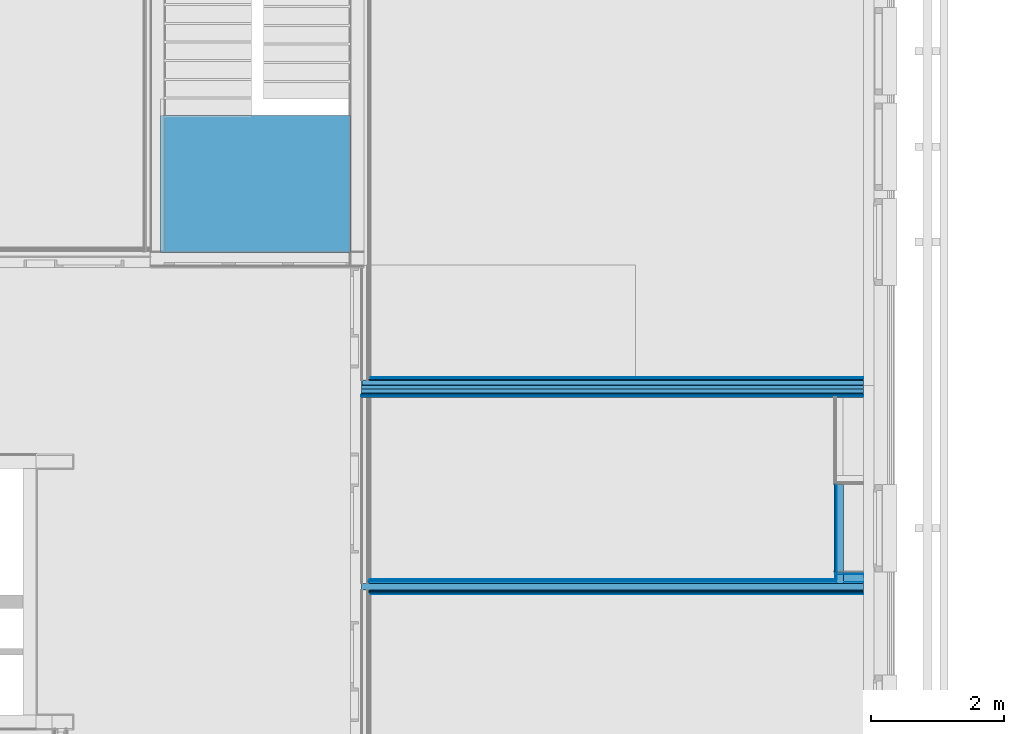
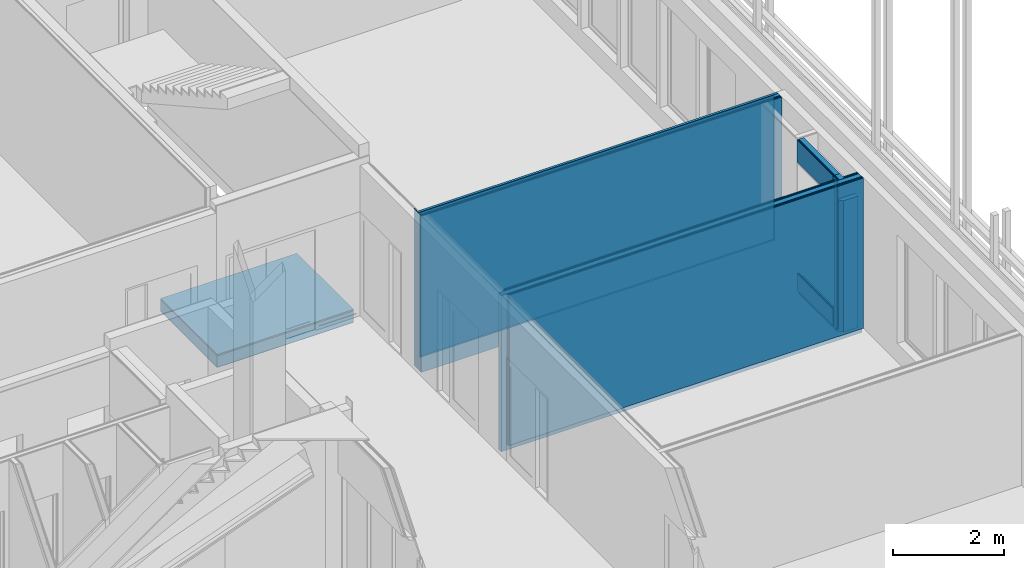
# One storey, part 104 of 139: 36 building element parts, 7 elements without a shape of their own.
"""IFC2X3 building model written with IfcOpenShell, lengths in millimetres."""

from ifc_helpers import new_model, entity, si_unit, converted_unit, derived_unit, money_unit, direction, frame, origin_with_axes, place, context, subcontext, project, spatial, faceted_brep, material, type_object, element, aggregate, save


model = new_model("IFC2X3")

# Units and contexts
model_context = context("Model", 3, precision=0.01, world=origin_with_axes(), true_north=direction((0.0, 1.0)))
body_context = subcontext(model_context, "Body", "Model", "MODEL_VIEW")
ifc_project = project(units=[si_unit("LENGTHUNIT", "METRE", prefix="MILLI"), si_unit("AREAUNIT", "SQUARE_METRE"), si_unit("VOLUMEUNIT", "CUBIC_METRE"), converted_unit("PLANEANGLEUNIT", "DEGREE", entity("IfcPlaneAngleMeasure", 0.0174532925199), si_unit("PLANEANGLEUNIT", "RADIAN"), dimensions=[0, 0, 0, 0, 0, 0, 0]), money_unit("EUR"), converted_unit("TIMEUNIT", "Year", entity("IfcTimeMeasure", 31556926.0), si_unit("TIMEUNIT", "SECOND"), dimensions=[0, 0, 1, 0, 0, 0, 0]), si_unit("MASSUNIT", "GRAM", prefix="KILO"), si_unit("THERMODYNAMICTEMPERATUREUNIT", "DEGREE_CELSIUS"), si_unit("LUMINOUSINTENSITYUNIT", "LUMEN"), si_unit("ENERGYUNIT", "JOULE", prefix="MEGA"), derived_unit("THERMALCONDUCTANCEUNIT", [(si_unit("POWERUNIT", "WATT"), 1), (si_unit("LENGTHUNIT", "METRE"), -1), (si_unit("THERMODYNAMICTEMPERATUREUNIT", "KELVIN"), -1)]), derived_unit("SPECIFICHEATCAPACITYUNIT", [(si_unit("ENERGYUNIT", "JOULE"), 1), (si_unit("MASSUNIT", "GRAM", prefix="KILO"), -1), (si_unit("THERMODYNAMICTEMPERATUREUNIT", "KELVIN"), -1)]), derived_unit("MASSDENSITYUNIT", [(si_unit("MASSUNIT", "GRAM", prefix="KILO"), 1), (si_unit("VOLUMEUNIT", "CUBIC_METRE"), -1)])], contexts=[model_context])

# Site, building, storey
site_placement = place(None, origin_with_axes())
site = spatial("IfcSite", under=ifc_project, at=site_placement, Name="Kolde pst 67a", CompositionType="ELEMENT")
building_placement = place(site_placement, origin_with_axes())
building = spatial("IfcBuilding", under=site, at=building_placement, Name="Riigigümnaasium", CompositionType="ELEMENT")
storey_placement = place(building_placement, frame((0.0, 0.0, 4600.0), z_axis=(0.0, 0.0, 1.0), x_axis=(1.0, 0.0, 0.0)))
storey = spatial("IfcBuildingStorey", under=building, at=storey_placement, Name="2. korrus", CompositionType="ELEMENT", Elevation=4600.0)

# Wall, building element parts
wall_type_1 = type_object("IfcWallType", Name="SS-PK-07/1_2xvill70+2dold muusikaklassi sein 300", PredefinedType="NOTDEFINED")
wall_1_placement = place(storey_placement, frame((52589.9941222, 50935.0003787, -130.0), z_axis=(0.0, 0.0, 1.0), x_axis=(1.0, 0.0, 0.0)))
wall_1 = element("IfcWall", 1, at=wall_1_placement, inside=storey, type_object=wall_type_1, Name="Sisesein")
ifc_material_1 = material(Name="_VIIMISTLUSKIHT - viimistlus vastavalt SA osale")
building_element_part_1_placement = place(wall_1_placement, origin_with_axes())
building_element_part_1 = element("IfcBuildingElementPart", 2, at=building_element_part_1_placement, material=ifc_material_1, Name="_VIIMISTLUSKIHT - viimistlus vastavalt SA osale", context=body_context, shape_type="Brep", body=[
    faceted_brep([(7690.0, -10.0, 130.0), (7690.0, 0.0, 130.0), (7690.0, 0.0, 3305.0), (7690.0, -10.0, 3305.0), (300.0, -10.0, 130.0), (300.0, 0.0, 130.0), (300.0, 0.0, 3305.0), (300.0, -10.0, 3305.0)], [[[0, 1, 2, 3]], [[1, 0, 4, 5]], [[1, 5, 6, 2]], [[3, 2, 6, 7]], [[0, 3, 7, 4]], [[5, 4, 7, 6]]]),
])
ifc_material_2 = material(Name="_PLAATMATERJAL - tuletõkkekipsplaat, Knauf Red GKF või samaväärne")
building_element_part_2_placement = place(wall_1_placement, origin_with_axes())
building_element_part_2 = element("IfcBuildingElementPart", 3, at=building_element_part_2_placement, material=ifc_material_2, Name="_PLAATMATERJAL - tuletõkkekipsplaat, Knauf Red GKF või samaväärne", context=body_context, shape_type="Brep", body=[
    faceted_brep([(7690.0, -25.0, 127.0), (7690.0, -10.0, 127.0), (7690.0, -10.0, 3330.0), (7690.0, -25.0, 3330.0), (290.0, -25.0, 127.0), (290.0, -10.0, 127.0), (290.0, -10.0, 3330.0), (290.0, -25.0, 3330.0)], [[[0, 1, 2, 3]], [[1, 0, 4, 5]], [[1, 5, 6, 2]], [[3, 2, 6, 7]], [[0, 3, 7, 4]], [[5, 4, 7, 6]]]),
])
ifc_material_3 = material(Name="_PLAATMATERJAL - OSB3 plaat")
building_element_part_3_placement = place(wall_1_placement, origin_with_axes())
building_element_part_3 = element("IfcBuildingElementPart", 4, at=building_element_part_3_placement, material=ifc_material_3, Name="_PLAATMATERJAL - OSB3 plaat", context=body_context, shape_type="Brep", body=[
    faceted_brep([(7690.0, -40.0, 127.0), (7690.0, -25.0, 127.0), (7690.0, -25.0, 3330.0), (7690.0, -40.0, 3330.0), (275.0, -40.0, 127.0), (275.0, -25.0, 127.0), (275.0, -25.0, 3330.0), (275.0, -40.0, 3330.0)], [[[0, 1, 2, 3]], [[1, 0, 4, 5]], [[1, 5, 6, 2]], [[3, 2, 6, 7]], [[0, 3, 7, 4]], [[5, 4, 7, 6]]]),
])
ifc_material_4 = material(Name="_KARKASS - puitroov 70x45mm vertikaalne, samm 600mm, vahel mineraalvill, helineeldetegur αw = 1.0, ISOVER ACOUSTIC 70mm või samaväärne")
building_element_part_4_placement = place(wall_1_placement, origin_with_axes())
building_element_part_4 = element("IfcBuildingElementPart", 5, at=building_element_part_4_placement, material=ifc_material_4, Name="_KARKASS - puitroov 70x45mm vertikaalne, samm 600mm, vahel mineraalvill, helineeldetegur αw = 1.0, ISOVER ACOUSTIC 70mm või samaväärne", context=body_context, shape_type="Brep", body=[
    faceted_brep([(169.999902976, -40.0, 3470.0), (169.999902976, -40.0, 3380.0), (7690.0, -40.0, 3380.0), (7690.0, -40.0, 0.0), (160.0, -40.0, 0.0), (160.0, -40.0, 3470.0), (169.999902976, -110.0, 3470.0), (169.999902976, -110.0, 3380.0), (7690.0, -110.0, 3380.0), (7690.0, -110.0, 0.0), (160.0, -110.0, 0.0), (160.0, -110.0, 3470.0)], [[[0, 1, 2, 3, 4, 5]], [[1, 0, 6, 7]], [[8, 2, 1, 7]], [[2, 8, 9, 3]], [[3, 9, 10, 4]], [[10, 11, 5, 4]], [[6, 0, 5, 11]], [[7, 6, 11, 10, 9, 8]]]),
])
ifc_material_5 = material(Name="_ÕHKVAHE")
building_element_part_5_placement = place(wall_1_placement, origin_with_axes())
building_element_part_5 = element("IfcBuildingElementPart", 6, at=building_element_part_5_placement, material=ifc_material_5, Name="_ÕHKVAHE", context=body_context, shape_type="Brep", body=[
    faceted_brep([(169.999902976, -120.0, 3450.0), (7690.0, -120.0, 3450.0), (7690.0, -120.0, 3380.0), (169.999902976, -120.0, 3380.0), (7690.0, -170.0, 3450.0), (159.999902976, -120.0, 3450.0), (160.0, -170.0, 3450.0), (7690.0, -170.0, 0.0), (7690.0, -110.0, 0.0), (7690.0, -110.0, 3380.0), (169.999902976, -110.0, 3380.0), (169.999902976, -120.0, 3470.0), (169.999902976, -110.0, 3470.0), (159.999902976, -120.0, 3470.0), (160.0, -110.0, 3470.0), (160.0, -110.0, 0.0), (160.0, -170.0, 0.0)], [[[0, 1, 2, 3]], [[4, 1, 0, 5, 6]], [[1, 4, 7, 8, 9, 2]], [[2, 9, 10, 3]], [[11, 0, 3, 10, 12]], [[0, 11, 13, 5]], [[5, 13, 14, 15, 16, 6]], [[4, 6, 16, 7]], [[8, 7, 16, 15]], [[12, 10, 9, 8, 15, 14]], [[13, 11, 12, 14]]]),
])
building_element_part_6_placement = place(wall_1_placement, origin_with_axes())
building_element_part_6 = element("IfcBuildingElementPart", 7, at=building_element_part_6_placement, material=ifc_material_4, Name="_KARKASS - puitroov 70x45mm vertikaalne, samm 600mm, vahel mineraalvill, helineeldetegur αw = 1.0, ISOVER ACOUSTIC 70mm või samaväärne", context=body_context, shape_type="Brep", body=[
    faceted_brep([(160.0, -170.0, 3450.0), (7690.0, -170.0, 3450.0), (7690.0, -170.0, 0.0), (160.0, -170.0, 0.0), (7690.0, -240.0, 3450.0), (160.0, -240.0, 3450.0), (7690.0, -240.0, 0.0), (160.0, -240.0, 0.0)], [[[0, 1, 2, 3]], [[4, 1, 0, 5]], [[1, 4, 6, 2]], [[2, 6, 7, 3]], [[5, 0, 3, 7]], [[4, 5, 7, 6]]]),
])
building_element_part_7_placement = place(wall_1_placement, origin_with_axes())
building_element_part_7 = element("IfcBuildingElementPart", 8, at=building_element_part_7_placement, material=ifc_material_2, Name="_PLAATMATERJAL - tuletõkkekipsplaat, Knauf Red GKF või samaväärne", context=body_context, shape_type="Brep", body=[
    faceted_brep([(160.0, -240.0, 3450.0), (7690.0, -240.0, 3450.0), (7690.0, -240.0, 0.0), (160.0, -240.0, 0.0), (7690.0, -255.0, 3450.0), (160.0, -255.0, 3450.0), (7690.0, -255.0, 0.0), (160.0, -255.0, 0.0)], [[[0, 1, 2, 3]], [[4, 1, 0, 5]], [[1, 4, 6, 2]], [[2, 6, 7, 3]], [[5, 0, 3, 7]], [[4, 5, 7, 6]]]),
])
building_element_part_8_placement = place(wall_1_placement, origin_with_axes())
building_element_part_8 = element("IfcBuildingElementPart", 9, at=building_element_part_8_placement, material=ifc_material_2, Name="_PLAATMATERJAL - tuletõkkekipsplaat, Knauf Red GKF või samaväärne", context=body_context, shape_type="Brep", body=[
    faceted_brep([(160.0, -255.0, 3450.0), (7690.0, -255.0, 3450.0), (7690.0, -255.0, 0.0), (160.0, -255.0, 0.0), (7690.0, -270.0, 3450.0), (160.0, -270.0, 3450.0), (7690.0, -270.0, 0.0), (160.0, -270.0, 0.0)], [[[0, 1, 2, 3]], [[4, 1, 0, 5]], [[1, 4, 6, 2]], [[2, 6, 7, 3]], [[5, 0, 3, 7]], [[4, 5, 7, 6]]]),
])
ifc_material_6 = material(Name="_KARKASS - eriprofiilkinnitus vastavalt sisemisele plaatviimistlusele")
building_element_part_9_placement = place(wall_1_placement, origin_with_axes())
building_element_part_9 = element("IfcBuildingElementPart", 10, at=building_element_part_9_placement, material=ifc_material_6, Name="_KARKASS - eriprofiilkinnitus vastavalt sisemisele plaatviimistlusele", context=body_context, shape_type="Brep", body=[
    faceted_brep([(160.0, -270.0, 3450.0), (7690.0, -270.0, 3450.0), (7690.0, -270.0, 0.0), (160.0, -270.0, 0.0), (7690.0, -280.0, 3450.0), (160.0, -280.0, 3450.0), (7690.0, -280.0, 0.0), (160.0, -280.0, 0.0)], [[[0, 1, 2, 3]], [[4, 1, 0, 5]], [[1, 4, 6, 2]], [[2, 6, 7, 3]], [[5, 0, 3, 7]], [[4, 5, 7, 6]]]),
])
ifc_material_7 = material(Name="_VIIMISTLUSKIHT - Dold plaat vastavalt SA osale")
building_element_part_10_placement = place(wall_1_placement, origin_with_axes())
building_element_part_10 = element("IfcBuildingElementPart", 11, at=building_element_part_10_placement, material=ifc_material_7, Name="_VIIMISTLUSKIHT - Dold plaat vastavalt SA osale", context=body_context, shape_type="Brep", body=[
    faceted_brep([(160.0, -280.0, 3450.0), (7690.0, -280.0, 3450.0), (7690.0, -280.0, 0.0), (160.0, -280.0, 0.0), (7690.0, -300.0, 3450.0), (160.0, -300.0, 3450.0), (7690.0, -300.0, 0.0), (160.0, -300.0, 0.0)], [[[0, 1, 2, 3]], [[4, 1, 0, 5]], [[1, 4, 6, 2]], [[2, 6, 7, 3]], [[5, 0, 3, 7]], [[4, 5, 7, 6]]]),
])
aggregate(wall_1, [building_element_part_1, building_element_part_2, building_element_part_3, building_element_part_4, building_element_part_5, building_element_part_6, building_element_part_7, building_element_part_8, building_element_part_9, building_element_part_10])

wall_type_2 = type_object("IfcWallType", Name="SS-PK-10/4_vill100+2värv distantsliistudega 220", PredefinedType="NOTDEFINED")
wall_2_placement = place(storey_placement, frame((52589.9941222, 47904.9998825, -130.0), z_axis=(0.0, 0.0, 1.0), x_axis=(1.0, 0.0, 0.0)))
wall_2 = element("IfcWall", 12, at=wall_2_placement, inside=storey, type_object=wall_type_2, Name="Sisesein")
building_element_part_11_placement = place(wall_2_placement, origin_with_axes())
building_element_part_11 = element("IfcBuildingElementPart", 13, at=building_element_part_11_placement, material=ifc_material_1, Name="_VIIMISTLUSKIHT - viimistlus vastavalt SA osale", context=body_context, shape_type="Brep", body=[
    faceted_brep([(7390.0, 0.0, 3450.0), (7690.0, 0.0, 3450.0), (7690.0, 0.0, 130.0), (7390.0, 0.0, 130.0), (7690.0, -5.0, 3450.0), (7390.0, -5.0, 3450.0), (7690.0, -5.0, 130.0), (7390.0, -5.0, 130.0)], [[[0, 1, 2, 3]], [[4, 1, 0, 5]], [[1, 4, 6, 2]], [[3, 2, 6, 7]], [[5, 0, 3, 7]], [[4, 5, 7, 6]]]),
    faceted_brep([(300.0, 0.0, 3450.0), (7265.0, 0.0, 3450.0), (7265.0, 0.0, 130.0), (300.0, 0.0, 130.0), (7265.0, -5.0, 3450.0), (300.0, -5.0, 3450.0), (7265.0, -5.0, 130.0), (300.0, -5.0, 130.0)], [[[0, 1, 2, 3]], [[4, 1, 0, 5]], [[1, 4, 6, 2]], [[3, 2, 6, 7]], [[5, 0, 3, 7]], [[4, 5, 7, 6]]]),
])
building_element_part_12_placement = place(wall_2_placement, origin_with_axes())
building_element_part_12 = element("IfcBuildingElementPart", 14, at=building_element_part_12_placement, material=ifc_material_2, Name="_PLAATMATERJAL - tuletõkkekipsplaat, Knauf Red GKF või samaväärne", context=body_context, shape_type="Brep", body=[
    faceted_brep([(7390.0, -5.0, 3450.0), (7690.0, -5.0, 3450.0), (7690.0, -5.0, 127.0), (7390.0, -5.0, 127.0), (7690.0, -20.0, 3450.0), (7390.0, -20.0, 3450.0), (7690.0, -20.0, 127.0), (7390.0, -20.0, 127.0)], [[[0, 1, 2, 3]], [[4, 1, 0, 5]], [[1, 4, 6, 2]], [[3, 2, 6, 7]], [[5, 0, 3, 7]], [[4, 5, 7, 6]]]),
    faceted_brep([(290.0, -5.0, 3450.0), (7290.0, -5.0, 3450.0), (7290.0, -5.0, 127.0), (290.0, -5.0, 127.0), (7290.0, -20.0, 3450.0), (290.0, -20.0, 3450.0), (7290.0, -20.0, 127.0), (290.0, -20.0, 127.0)], [[[0, 1, 2, 3]], [[4, 1, 0, 5]], [[1, 4, 6, 2]], [[3, 2, 6, 7]], [[5, 0, 3, 7]], [[4, 5, 7, 6]]]),
])
building_element_part_13_placement = place(wall_2_placement, origin_with_axes())
building_element_part_13 = element("IfcBuildingElementPart", 15, at=building_element_part_13_placement, material=ifc_material_3, Name="_PLAATMATERJAL - OSB3 plaat", context=body_context, shape_type="Brep", body=[
    faceted_brep([(7390.0, -20.0, 3450.0), (7690.0, -20.0, 3450.0), (7690.0, -20.0, 127.0), (7390.0, -20.0, 127.0), (7690.0, -35.0, 3450.0), (7390.0, -35.0, 3450.0), (7690.0, -35.0, 127.0), (7390.0, -35.0, 127.0)], [[[0, 1, 2, 3]], [[4, 1, 0, 5]], [[1, 4, 6, 2]], [[3, 2, 6, 7]], [[5, 0, 3, 7]], [[4, 5, 7, 6]]]),
    faceted_brep([(275.0, -20.0, 3450.0), (7290.0, -20.0, 3450.0), (7290.0, -20.0, 127.0), (275.0, -20.0, 127.0), (7290.0, -35.0, 3450.0), (275.0, -35.0, 3450.0), (7290.0, -35.0, 127.0), (275.0, -35.0, 127.0)], [[[0, 1, 2, 3]], [[4, 1, 0, 5]], [[1, 4, 6, 2]], [[3, 2, 6, 7]], [[5, 0, 3, 7]], [[4, 5, 7, 6]]]),
])
ifc_material_8 = material(Name="_KARKASS- distantasliist")
building_element_part_14_placement = place(wall_2_placement, origin_with_axes())
building_element_part_14 = element("IfcBuildingElementPart", 16, at=building_element_part_14_placement, material=ifc_material_8, Name="_KARKASS- distantasliist", context=body_context, shape_type="Brep", body=[
    faceted_brep([(7390.0, -35.0, 3450.0), (7690.0, -35.0, 3450.0), (7690.0, -35.0, 127.0), (7390.0, -35.0, 127.0), (7690.0, -60.0, 3450.0), (7390.0, -60.0, 3450.0), (7690.0, -60.0, 127.0), (7390.0, -60.0, 127.0)], [[[0, 1, 2, 3]], [[4, 1, 0, 5]], [[1, 4, 6, 2]], [[3, 2, 6, 7]], [[5, 0, 3, 7]], [[4, 5, 7, 6]]]),
    faceted_brep([(275.0, -35.0, 3450.0), (7290.0, -35.0, 3450.0), (7290.0, -35.0, 127.0), (275.0, -35.0, 127.0), (7290.0, -60.0, 3450.0), (275.0, -60.0, 3450.0), (7290.0, -60.0, 127.0), (275.0, -60.0, 127.0)], [[[0, 1, 2, 3]], [[4, 1, 0, 5]], [[1, 4, 6, 2]], [[3, 2, 6, 7]], [[5, 0, 3, 7]], [[4, 5, 7, 6]]]),
])
ifc_material_9 = material(Name="_KARKASS - puitpruss 100x50mm vertikaalne, samm 600mm, vahel mineraalvill, helineeldetegur αw = 1.0, ISOVER ACOUSTIC 100mm või samaväärne")
building_element_part_15_placement = place(wall_2_placement, origin_with_axes())
building_element_part_15 = element("IfcBuildingElementPart", 17, at=building_element_part_15_placement, material=ifc_material_9, Name="_KARKASS - puitpruss 100x50mm vertikaalne, samm 600mm, vahel mineraalvill, helineeldetegur αw = 1.0, ISOVER ACOUSTIC 100mm või samaväärne", context=body_context, shape_type="Brep", body=[
    faceted_brep([(160.0, -60.0, 3450.0), (7690.0, -60.0, 3450.0), (7690.0, -60.0, 0.0), (160.0, -60.0, 0.0), (7690.0, -160.0, 3450.0), (160.0, -160.0, 3450.0), (7690.0, -160.0, 0.0), (160.0, -160.0, 0.0)], [[[0, 1, 2, 3]], [[4, 1, 0, 5]], [[1, 4, 6, 2]], [[2, 6, 7, 3]], [[5, 0, 3, 7]], [[4, 5, 7, 6]]]),
])
building_element_part_16_placement = place(wall_2_placement, origin_with_axes())
building_element_part_16 = element("IfcBuildingElementPart", 18, at=building_element_part_16_placement, material=ifc_material_8, Name="_KARKASS- distantasliist", context=body_context, shape_type="Brep", body=[
    faceted_brep([(275.0, -160.0, 3450.0), (7690.0, -160.0, 3450.0), (7690.0, -160.0, 127.0), (275.0, -160.0, 127.0), (7690.0, -185.0, 3450.0), (275.0, -185.0, 3450.0), (7690.0, -185.0, 127.0), (275.0, -185.0, 127.0)], [[[0, 1, 2, 3]], [[4, 1, 0, 5]], [[1, 4, 6, 2]], [[3, 2, 6, 7]], [[5, 0, 3, 7]], [[4, 5, 7, 6]]]),
])
building_element_part_17_placement = place(wall_2_placement, origin_with_axes())
building_element_part_17 = element("IfcBuildingElementPart", 19, at=building_element_part_17_placement, material=ifc_material_3, Name="_PLAATMATERJAL - OSB3 plaat", context=body_context, shape_type="Brep", body=[
    faceted_brep([(275.0, -185.0, 3450.0), (7690.0, -185.0, 3450.0), (7690.0, -185.0, 127.0), (275.0, -185.0, 127.0), (7690.0, -200.0, 3450.0), (275.0, -200.0, 3450.0), (7690.0, -200.0, 127.0), (275.0, -200.0, 127.0)], [[[0, 1, 2, 3]], [[4, 1, 0, 5]], [[1, 4, 6, 2]], [[3, 2, 6, 7]], [[5, 0, 3, 7]], [[4, 5, 7, 6]]]),
])
building_element_part_18_placement = place(wall_2_placement, origin_with_axes())
building_element_part_18 = element("IfcBuildingElementPart", 20, at=building_element_part_18_placement, material=ifc_material_2, Name="_PLAATMATERJAL - tuletõkkekipsplaat, Knauf Red GKF või samaväärne", context=body_context, shape_type="Brep", body=[
    faceted_brep([(290.0, -200.0, 3450.0), (7690.0, -200.0, 3450.0), (7690.0, -200.0, 127.0), (290.0, -200.0, 127.0), (7690.0, -215.0, 3450.0), (290.0, -215.0, 3450.0), (7690.0, -215.0, 127.0), (290.0, -215.0, 127.0)], [[[0, 1, 2, 3]], [[4, 1, 0, 5]], [[1, 4, 6, 2]], [[3, 2, 6, 7]], [[5, 0, 3, 7]], [[4, 5, 7, 6]]]),
])
building_element_part_19_placement = place(wall_2_placement, origin_with_axes())
building_element_part_19 = element("IfcBuildingElementPart", 21, at=building_element_part_19_placement, material=ifc_material_1, Name="_VIIMISTLUSKIHT - viimistlus vastavalt SA osale", context=body_context, shape_type="Brep", body=[
    faceted_brep([(300.0, -215.0, 3450.0), (7690.0, -215.0, 3450.0), (7690.0, -215.0, 130.0), (300.0, -215.0, 130.0), (7690.0, -220.0, 3450.0), (300.0, -220.0, 3450.0), (7690.0, -220.0, 130.0), (300.0, -220.0, 130.0)], [[[0, 1, 2, 3]], [[4, 1, 0, 5]], [[1, 4, 6, 2]], [[3, 2, 6, 7]], [[5, 0, 3, 7]], [[4, 5, 7, 6]]]),
])
aggregate(wall_2, [building_element_part_11, building_element_part_12, building_element_part_13, building_element_part_14, building_element_part_15, building_element_part_16, building_element_part_17, building_element_part_18, building_element_part_19])

# Slab, building element parts
slab_type = type_object("IfcSlabType", Name="VL-RB-25/1_+puitkilp trepikodades 290", PredefinedType="NOTDEFINED")
slab_placement = place(storey_placement, frame((51049.9023484, 54860.0076056, 0.0), z_axis=(0.0, 0.0, 1.0), x_axis=(1.0, 0.0, 0.0)))
slab = element("IfcSlab", 22, at=slab_placement, inside=storey, type_object=slab_type, Name="VAHELAGI", PredefinedType="NOTDEFINED")
building_element_part_20_placement = place(slab_placement, origin_with_axes())
building_element_part_20 = element("IfcBuildingElementPart", 23, at=building_element_part_20_placement, material=ifc_material_1, Name="_VIIMISTLUSKIHT - viimistlus vastavalt SA osale", context=body_context, shape_type="Brep", body=[
    faceted_brep([(0.0, 0.0, -30.0), (-1309.91567615, -0.00840876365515, -30.0), (-1309.91567615, -0.00840876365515, 0.0), (0.0, 0.0, 0.0), (1540.09177384, 0.00988633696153, -30.0), (1540.09177384, -2050.00742507, -30.0), (-1309.91567615, -2050.00742507, -30.0), (-1309.91567615, -2050.00742507, 0.0), (1540.09177384, 0.00988633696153, 0.0), (1540.09177384, -2050.00742507, 0.0)], [[[0, 1, 2, 3]], [[1, 0, 4, 5, 6]], [[1, 6, 7, 2]], [[8, 3, 2, 7, 9]], [[4, 0, 3, 8]], [[5, 4, 8, 9]], [[6, 5, 9, 7]]]),
])
ifc_material_10 = material(Name="_KANDETARIND - monteeritav raudbetoon vastavalt EK osale")
building_element_part_21_placement = place(slab_placement, origin_with_axes())
building_element_part_21 = element("IfcBuildingElementPart", 24, at=building_element_part_21_placement, material=ifc_material_10, Name="_KANDETARIND - monteeritav raudbetoon vastavalt EK osale", context=body_context, shape_type="Brep", body=[
    faceted_brep([(0.0, 0.0, -280.0), (-1309.91567615, -0.00840876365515, -280.0), (-1309.91567615, -0.00840876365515, -30.0), (0.0, 0.0, -30.0), (1540.09177384, 0.00988633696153, -280.0), (1540.09177384, -2050.00742507, -280.0), (-1309.91567615, -2050.00742507, -280.0), (-1309.91567615, -2050.00742507, -30.0), (1540.09177384, 0.00988633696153, -30.0), (1540.09177384, -2050.00742507, -30.0)], [[[0, 1, 2, 3]], [[1, 0, 4, 5, 6]], [[1, 6, 7, 2]], [[8, 3, 2, 7, 9]], [[4, 0, 3, 8]], [[5, 4, 8, 9]], [[6, 5, 9, 7]]]),
])
building_element_part_22_placement = place(slab_placement, origin_with_axes())
building_element_part_22 = element("IfcBuildingElementPart", 25, at=building_element_part_22_placement, material=ifc_material_1, Name="_VIIMISTLUSKIHT - viimistlus vastavalt SA osale", context=body_context, shape_type="Brep", body=[
    faceted_brep([(0.0, 0.0, -280.0), (0.0, 0.0, -290.0), (-1309.91567615, -0.00840876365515, -290.0), (-1309.91567615, -0.00840876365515, -280.0), (1540.09177384, 0.00988633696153, -280.0), (1540.09177384, 0.00988633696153, -290.0), (1540.09177384, -2050.00742507, -290.0), (-1309.91567615, -2050.00742507, -290.0), (-1309.91567615, -2050.00742507, -280.0), (1540.09177384, -2050.00742507, -280.0)], [[[0, 1, 2, 3]], [[4, 5, 1, 0]], [[2, 1, 5, 6, 7]], [[3, 2, 7, 8]], [[4, 0, 3, 8, 9]], [[9, 6, 5, 4]], [[8, 7, 6, 9]]]),
])
aggregate(slab, [building_element_part_20, building_element_part_21, building_element_part_22])

# Wall, building element parts
wall_type_3 = type_object("IfcWallType", Name="SS-MK-10/2_šahti sein+plaat 140", PredefinedType="NOTDEFINED")
wall_3_placement = place(storey_placement, frame((60439.9941222, 48019.9998825, -150.0), z_axis=(0.0, 0.0, 1.0), x_axis=(-1.0, 0.0, 0.0)))
wall_3 = element("IfcWall", 26, at=wall_3_placement, inside=storey, type_object=wall_type_3, Name="Varisein")
ifc_material_11 = material(Name="_KARKASS - metallkarkass CW 100/50/06 ja UW 100/40/06, samm 600, vahel mineraalvill, helineeldetegur αw = 1.0,  ISOVER ACOUSTIC 100mm või samaväärne")
building_element_part_23_placement = place(wall_3_placement, origin_with_axes())
building_element_part_23 = element("IfcBuildingElementPart", 27, at=building_element_part_23_placement, material=ifc_material_11, Name="_KARKASS - metallkarkass CW 100/50/06 ja UW 100/40/06, samm 600, vahel mineraalvill, helineeldetegur αw = 1.0,  ISOVER ACOUSTIC 100mm või samaväärne", context=body_context, shape_type="Brep", body=[
    faceted_brep([(160.0, 140.0, 50.0), (160.0, 40.0, 50.0), (160.0, 40.0, 2950.0), (160.0, 140.0, 2950.0), (560.0, 40.0, 50.0), (460.0, 140.0, 50.0), (560.0, 40.0, 2950.0), (460.0, 140.0, 2950.0)], [[[0, 1, 2, 3]], [[4, 1, 0, 5]], [[1, 4, 6, 2]], [[7, 3, 2, 6]], [[5, 0, 3, 7]], [[4, 5, 7, 6]]]),
])
ifc_material_12 = material(Name="_PLAATMATERJAL - kipsplaat veekindel")
building_element_part_24_placement = place(wall_3_placement, origin_with_axes())
building_element_part_24 = element("IfcBuildingElementPart", 28, at=building_element_part_24_placement, material=ifc_material_12, Name="_PLAATMATERJAL - kipsplaat veekindel", context=body_context, shape_type="Brep", body=[
    faceted_brep([(560.0, 40.0, 147.0), (560.0, 27.5, 147.0), (560.0, 27.5, 550.0), (560.0, 40.0, 550.0), (572.5, 27.5, 147.0), (160.0, 27.5, 147.0), (460.0, 27.5, 147.0), (460.0, 27.5, 550.0), (572.5, 27.5, 2950.0), (160.0, 27.5, 2950.0), (460.0, 40.0, 550.0), (560.0, 40.0, 2950.0), (160.0, 40.0, 147.0), (460.0, 40.0, 147.0), (160.0, 40.0, 2950.0)], [[[0, 1, 2, 3]], [[4, 1, 0]], [[5, 6, 7, 2, 1, 4, 8, 9]], [[3, 2, 7, 10]], [[4, 0, 3, 11, 8]], [[6, 5, 12, 13]], [[6, 13, 10, 7]], [[11, 14, 9, 8]], [[12, 5, 9, 14]], [[13, 12, 14, 11, 3, 10]]]),
])
aggregate(wall_3, [building_element_part_23, building_element_part_24])

wall_4_placement = place(storey_placement, frame((59839.9941222, 48019.9998825, -150.0), z_axis=(0.0, 0.0, 1.0), x_axis=(0.0, -1.0, 0.0)))
wall_4 = element("IfcWall", 29, at=wall_4_placement, inside=storey, type_object=wall_type_3, Name="Varisein")
building_element_part_25_placement = place(wall_4_placement, origin_with_axes())
building_element_part_25 = element("IfcBuildingElementPart", 30, at=building_element_part_25_placement, material=ifc_material_11, Name="_KARKASS - metallkarkass CW 100/50/06 ja UW 100/40/06, samm 600, vahel mineraalvill, helineeldetegur αw = 1.0,  ISOVER ACOUSTIC 100mm või samaväärne", context=body_context, shape_type="Brep", body=[
    faceted_brep([(0.0, 40.000000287, 3470.0), (0.0, 140.0, 3470.0), (0.0, 140.0, 2950.0), (0.0, 40.0, 2950.0), (175.000000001, 140.0, 3470.0), (175.000000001, 40.0000001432, 3470.0), (175.000000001, 140.0, 50.0), (140.0, 140.0, 50.0), (140.0, 140.0, 2950.0), (40.0, 40.0, 2950.0), (40.0, 40.0, 50.0), (175.000000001, 40.0000002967, 50.0)], [[[0, 1, 2, 3]], [[4, 1, 0, 5]], [[1, 4, 6, 7, 8, 2]], [[8, 9, 3, 2]], [[5, 0, 3, 9, 10, 11]], [[4, 5, 11, 6]], [[10, 7, 6, 11]], [[7, 10, 9, 8]]]),
])
building_element_part_26_placement = place(wall_4_placement, origin_with_axes())
building_element_part_26 = element("IfcBuildingElementPart", 31, at=building_element_part_26_placement, material=ifc_material_12, Name="_PLAATMATERJAL - kipsplaat veekindel", context=body_context, shape_type="Brep", body=[
    faceted_brep([(0.0, 27.5, 3470.0), (0.0, 40.000000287, 3470.0), (0.0, 40.0, 2950.0), (0.0, 27.5, 2950.0), (120.000000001, 40.0000001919, 3470.0), (120.000000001, 27.5, 3470.0), (120.000000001, 40.0000002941, 147.0), (40.0, 40.0, 147.0), (40.0, 40.0, 2950.0), (27.5, 27.5, 2950.0), (27.5, 27.5, 147.0), (120.000000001, 27.5, 147.0)], [[[0, 1, 2, 3]], [[4, 1, 0, 5]], [[1, 4, 6, 7, 8, 2]], [[8, 9, 3, 2]], [[5, 0, 3, 9, 10, 11]], [[4, 5, 11, 6]], [[10, 7, 6, 11]], [[7, 10, 9, 8]]]),
])
building_element_part_27_placement = place(wall_4_placement, origin_with_axes())
building_element_part_27 = element("IfcBuildingElementPart", 32, at=building_element_part_27_placement, material=ifc_material_12, Name="_PLAATMATERJAL - kipsplaat veekindel", context=body_context, shape_type="Brep", body=[
    faceted_brep([(0.0, 15.000000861, 3470.0), (0.0, 27.5, 3470.0), (0.0, 27.5, 2950.0), (0.0, 15.0, 2950.0), (120.000000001, 27.5, 3470.0), (120.000000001, 15.0000005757, 3470.0), (120.000000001, 27.5, 147.0), (27.5, 27.5, 147.0), (27.5, 27.5, 2950.0), (15.0, 15.0, 2950.0), (15.0, 15.0, 147.0), (120.000000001, 15.0000008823, 147.0)], [[[0, 1, 2, 3]], [[4, 1, 0, 5]], [[1, 4, 6, 7, 8, 2]], [[8, 9, 3, 2]], [[5, 0, 3, 9, 10, 11]], [[4, 5, 11, 6]], [[10, 7, 6, 11]], [[7, 10, 9, 8]]]),
])
building_element_part_28_placement = place(wall_4_placement, origin_with_axes())
building_element_part_28 = element("IfcBuildingElementPart", 33, at=building_element_part_28_placement, material=ifc_material_1, Name="_VIIMISTLUSKIHT - viimistlus vastavalt SA osale", context=body_context, shape_type="Brep", body=[
    faceted_brep([(0.0, 0.0, 3470.0), (0.0, 15.000000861, 3470.0), (0.0, 15.0, 2950.0), (0.0, 0.0, 2950.0), (115.000000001, 15.0000005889, 3470.0), (115.000000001, 0.0, 3470.0), (115.000000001, 15.0000008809, 150.0), (15.0, 15.0, 150.0), (15.0, 15.0, 2950.0), (0.0, 0.0, 150.0), (115.000000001, 0.0, 150.0)], [[[0, 1, 2, 3]], [[4, 1, 0, 5]], [[1, 4, 6, 7, 8, 2]], [[2, 8, 3]], [[5, 0, 3, 9, 10]], [[4, 5, 10, 6]], [[9, 7, 6, 10]], [[7, 9, 3, 8]]]),
])
aggregate(wall_4, [building_element_part_25, building_element_part_26, building_element_part_27, building_element_part_28])

wall_5_placement = place(storey_placement, frame((59839.9941222, 49329.9998825, -150.0), z_axis=(0.0, 0.0, 1.0), x_axis=(0.0, -1.0, 0.0)))
wall_5 = element("IfcWall", 34, at=wall_5_placement, inside=storey, type_object=wall_type_3, Name="Varisein")
building_element_part_29_placement = place(wall_5_placement, origin_with_axes())
building_element_part_29 = element("IfcBuildingElementPart", 35, at=building_element_part_29_placement, material=ifc_material_11, Name="_KARKASS - metallkarkass CW 100/50/06 ja UW 100/40/06, samm 600, vahel mineraalvill, helineeldetegur αw = 1.0,  ISOVER ACOUSTIC 100mm või samaväärne", context=body_context, shape_type="Brep", body=[
    faceted_brep([(0.0, 40.0, 420.0), (0.0, 140.0, 420.0), (0.0, 140.0, 50.0), (0.0, 40.0, 50.0), (1310.0, 140.0, 420.0), (1310.0, 40.0, 420.0), (1310.0, 140.0, 550.0), (1350.0, 140.0, 550.0), (1350.0, 140.0, 50.0), (1350.0, 40.0, 50.0), (1350.0, 40.0, 550.0), (1310.0, 40.0, 550.0)], [[[0, 1, 2, 3]], [[4, 1, 0, 5]], [[4, 6, 7, 8, 2, 1]], [[3, 2, 8, 9]], [[5, 0, 3, 9, 10, 11]], [[4, 5, 11, 6]], [[6, 11, 10, 7]], [[9, 8, 7, 10]]]),
])
building_element_part_30_placement = place(wall_5_placement, origin_with_axes())
building_element_part_30 = element("IfcBuildingElementPart", 36, at=building_element_part_30_placement, material=ifc_material_12, Name="_PLAATMATERJAL - kipsplaat veekindel", context=body_context, shape_type="Brep", body=[
    faceted_brep([(0.0, 27.5, 520.0), (0.0, 40.0, 520.0), (0.0, 40.0, 147.0), (0.0, 27.5, 147.0), (1310.0, 40.0, 520.0), (1310.0, 27.5, 520.0), (1310.0, 40.0, 550.0), (1337.5, 40.0, 550.0), (1337.5, 40.0, 147.0), (1337.5, 27.5, 147.0), (1337.5, 27.5, 550.0), (1310.0, 27.5, 550.0)], [[[0, 1, 2, 3]], [[4, 1, 0, 5]], [[4, 6, 7, 8, 2, 1]], [[3, 2, 8, 9]], [[5, 0, 3, 9, 10, 11]], [[4, 5, 11, 6]], [[6, 11, 10, 7]], [[9, 8, 7, 10]]]),
])
building_element_part_31_placement = place(wall_5_placement, origin_with_axes())
building_element_part_31 = element("IfcBuildingElementPart", 37, at=building_element_part_31_placement, material=ifc_material_12, Name="_PLAATMATERJAL - kipsplaat veekindel", context=body_context, shape_type="Brep", body=[
    faceted_brep([(0.0, 15.0, 520.0), (0.0, 27.5, 520.0), (0.0, 27.5, 147.0), (0.0, 15.0, 147.0), (1310.0, 27.5, 520.0), (1310.0, 15.0, 520.0), (1310.0, 27.5, 550.0), (1325.0, 27.5, 550.0), (1325.0, 27.5, 147.0), (1325.0, 15.0, 147.0), (1325.0, 15.0, 550.0), (1310.0, 15.0, 550.0)], [[[0, 1, 2, 3]], [[4, 1, 0, 5]], [[4, 6, 7, 8, 2, 1]], [[3, 2, 8, 9]], [[5, 0, 3, 9, 10, 11]], [[4, 5, 11, 6]], [[6, 11, 10, 7]], [[9, 8, 7, 10]]]),
])
building_element_part_32_placement = place(wall_5_placement, origin_with_axes())
building_element_part_32 = element("IfcBuildingElementPart", 38, at=building_element_part_32_placement, material=ifc_material_1, Name="_VIIMISTLUSKIHT - viimistlus vastavalt SA osale", context=body_context, shape_type="Brep", body=[
    faceted_brep([(0.0, 0.0, 520.0), (0.0, 15.0, 520.0), (0.0, 15.0, 150.0), (0.0, 0.0, 150.0), (1310.0, 15.0, 520.0), (1310.0, 0.0, 520.0), (1310.0, 15.0, 150.0), (1310.0, 0.0, 150.0)], [[[0, 1, 2, 3]], [[4, 1, 0, 5]], [[1, 4, 6, 2]], [[3, 2, 6, 7]], [[5, 0, 3, 7]], [[4, 5, 7, 6]]]),
])
aggregate(wall_5, [building_element_part_29, building_element_part_30, building_element_part_31, building_element_part_32])

wall_6_placement = place(storey_placement, frame((59839.9941222, 49329.9998825, 2800.0), z_axis=(0.0, 0.0, 1.0), x_axis=(0.0, -1.0, 0.0)))
wall_6 = element("IfcWall", 39, at=wall_6_placement, inside=storey, type_object=wall_type_3, Name="Varisein")
building_element_part_33_placement = place(wall_6_placement, origin_with_axes())
building_element_part_33 = element("IfcBuildingElementPart", 40, at=building_element_part_33_placement, material=ifc_material_11, Name="_KARKASS - metallkarkass CW 100/50/06 ja UW 100/40/06, samm 600, vahel mineraalvill, helineeldetegur αw = 1.0,  ISOVER ACOUSTIC 100mm või samaväärne", context=body_context, shape_type="Brep", body=[
    faceted_brep([(1310.0, 140.0, 130.0), (0.0, 140.0, 130.0), (0.0, 140.0, 520.0), (1310.0, 140.0, 520.0), (0.0, 40.0, 130.0), (1310.0, 40.0, 130.0), (0.0, 40.0, 520.0), (1310.0, 40.0, 520.0)], [[[0, 1, 2, 3]], [[4, 1, 0, 5]], [[1, 4, 6, 2]], [[6, 7, 3, 2]], [[5, 0, 3, 7]], [[4, 5, 7, 6]]]),
])
building_element_part_34_placement = place(wall_6_placement, origin_with_axes())
building_element_part_34 = element("IfcBuildingElementPart", 41, at=building_element_part_34_placement, material=ifc_material_12, Name="_PLAATMATERJAL - kipsplaat veekindel", context=body_context, shape_type="Brep", body=[
    faceted_brep([(1310.0, 40.0, 30.0), (0.0, 40.0, 30.0), (0.0, 40.0, 520.0), (1310.0, 40.0, 520.0), (0.0, 27.5, 30.0), (1310.0, 27.5, 30.0), (0.0, 27.5, 520.0), (1310.0, 27.5, 520.0)], [[[0, 1, 2, 3]], [[4, 1, 0, 5]], [[1, 4, 6, 2]], [[6, 7, 3, 2]], [[5, 0, 3, 7]], [[4, 5, 7, 6]]]),
])
building_element_part_35_placement = place(wall_6_placement, origin_with_axes())
building_element_part_35 = element("IfcBuildingElementPart", 42, at=building_element_part_35_placement, material=ifc_material_12, Name="_PLAATMATERJAL - kipsplaat veekindel", context=body_context, shape_type="Brep", body=[
    faceted_brep([(1310.0, 27.5, 30.0), (0.0, 27.5, 30.0), (0.0, 27.5, 520.0), (1310.0, 27.5, 520.0), (0.0, 15.0, 30.0), (1310.0, 15.0, 30.0), (0.0, 15.0, 520.0), (1310.0, 15.0, 520.0)], [[[0, 1, 2, 3]], [[4, 1, 0, 5]], [[1, 4, 6, 2]], [[6, 7, 3, 2]], [[5, 0, 3, 7]], [[4, 5, 7, 6]]]),
])
building_element_part_36_placement = place(wall_6_placement, origin_with_axes())
building_element_part_36 = element("IfcBuildingElementPart", 43, at=building_element_part_36_placement, material=ifc_material_1, Name="_VIIMISTLUSKIHT - viimistlus vastavalt SA osale", context=body_context, shape_type="Brep", body=[
    faceted_brep([(1310.0, 15.0, 30.0), (0.0, 15.0, 30.0), (0.0, 15.0, 520.0), (1310.0, 15.0, 520.0), (0.0, 0.0, 30.0), (1310.0, 0.0, 30.0), (0.0, 0.0, 520.0), (1310.0, 0.0, 520.0)], [[[0, 1, 2, 3]], [[4, 1, 0, 5]], [[1, 4, 6, 2]], [[6, 7, 3, 2]], [[5, 0, 3, 7]], [[4, 5, 7, 6]]]),
])
aggregate(wall_6, [building_element_part_33, building_element_part_34, building_element_part_35, building_element_part_36])

save(model, "model.ifc")
